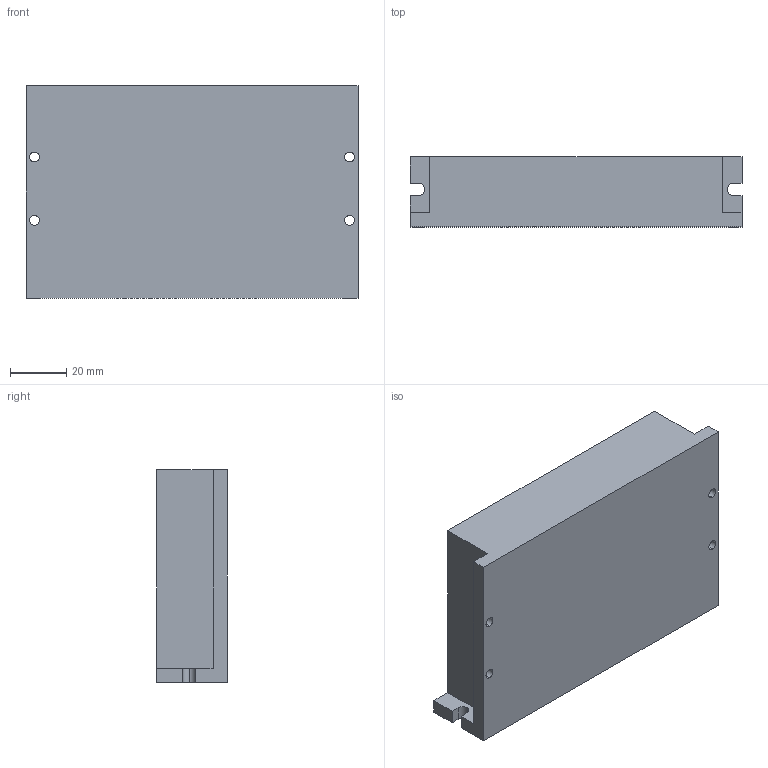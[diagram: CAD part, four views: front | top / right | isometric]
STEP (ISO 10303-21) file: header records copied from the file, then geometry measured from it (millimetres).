
FILE_DESCRIPTION (( 'STEP AP214' ), '1' );
FILE_NAME ('R42X2.STEP', '2020-11-10T02:34:11', ( 'wimxt.com' ), ( 'wimxt.com' ), 'SwSTEP 2.0', 'SolidWorks 2014', '' );
FILE_SCHEMA (( 'AUTOMOTIVE_DESIGN' ));
Length unit declared in the file: millimetre
Products named in the file (1): R42X2
Bounding box: 118 x 25 x 75.5 mm (x, y, z)
Volume: 202578.1 mm3; surface area: 27635.8 mm2
Topology: 1 solids, 1 shells, 29 faces, 81 edges, 54 vertices
Faces by surface type: plane 18, cylinder 11
Entity records: 987 total; most frequent: CARTESIAN_POINT 165, DIRECTION 163, ORIENTED_EDGE 162, EDGE_CURVE 81, VECTOR 59, LINE 59, VERTEX_POINT 54, AXIS2_PLACEMENT_3D 52
